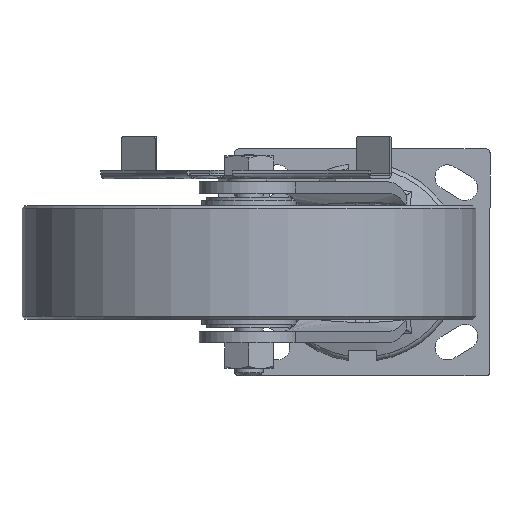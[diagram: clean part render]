
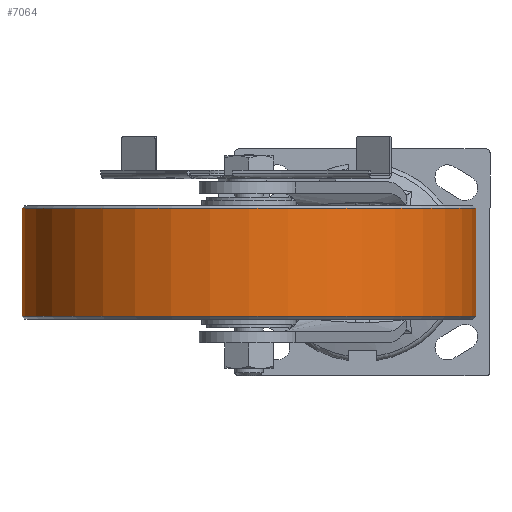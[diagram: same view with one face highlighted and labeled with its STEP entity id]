
A CAD part, front view. The second image highlights one B-rep face of the part: STEP entity #7064.
In plain terms, the highlighted cylindrical face has radius 101.6 mm (diameter 203.2 mm), a partial arc.
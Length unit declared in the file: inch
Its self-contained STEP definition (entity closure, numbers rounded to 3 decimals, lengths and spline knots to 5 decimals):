
#445 = DIRECTION ( 'NONE',  ( 0., 0., 1. ) ) ;
#583 = DIRECTION ( 'NONE',  ( -1., 0., 0. ) ) ;
#1116 = VECTOR ( 'NONE', #445, 39.37008 ) ;
#2665 = AXIS2_PLACEMENT_3D ( 'NONE', #29785, #43277, #19962 ) ;
#2746 = ORIENTED_EDGE ( 'NONE', *, *, #9779, .T. ) ;
#2912 = CARTESIAN_POINT ( 'NONE',  ( -4., 0., 0.95 ) ) ;
#3666 = CARTESIAN_POINT ( 'NONE',  ( 0., 0., -0.95 ) ) ;
#7064 = ADVANCED_FACE ( 'NONE', ( #19055 ), #26377, .T. ) ;
#8350 = VERTEX_POINT ( 'NONE', #18832 ) ;
#9779 = EDGE_CURVE ( 'NONE', #19366, #8350, #41791, .T. ) ;
#10350 = EDGE_LOOP ( 'NONE', ( #27290, #2746, #24322, #33626 ) ) ;
#10432 = DIRECTION ( 'NONE',  ( 0., 0., 1. ) ) ;
#10448 = AXIS2_PLACEMENT_3D ( 'NONE', #3666, #24279, #583 ) ;
#11182 = EDGE_CURVE ( 'NONE', #19366, #20779, #35803, .T. ) ;
#12751 = CARTESIAN_POINT ( 'NONE',  ( -4., 0., -0.95 ) ) ;
#13795 = LINE ( 'NONE', #33706, #1116 ) ;
#15661 = DIRECTION ( 'NONE',  ( -1., 0., 0. ) ) ;
#16761 = EDGE_CURVE ( 'NONE', #8350, #18525, #13795, .T. ) ;
#18525 = VERTEX_POINT ( 'NONE', #41731 ) ;
#18832 = CARTESIAN_POINT ( 'NONE',  ( 4., 0., -0.95 ) ) ;
#19055 = FACE_OUTER_BOUND ( 'NONE', #10350, .T. ) ;
#19366 = VERTEX_POINT ( 'NONE', #12751 ) ;
#19530 = VECTOR ( 'NONE', #10432, 39.37008 ) ;
#19962 = DIRECTION ( 'NONE',  ( 1., 0., 0. ) ) ;
#20779 = VERTEX_POINT ( 'NONE', #2912 ) ;
#24279 = DIRECTION ( 'NONE',  ( 0., 0., 1. ) ) ;
#24322 = ORIENTED_EDGE ( 'NONE', *, *, #16761, .T. ) ;
#24457 = AXIS2_PLACEMENT_3D ( 'NONE', #41454, #32220, #15661 ) ;
#26377 = CYLINDRICAL_SURFACE ( 'NONE', #2665, 4. ) ;
#27290 = ORIENTED_EDGE ( 'NONE', *, *, #11182, .F. ) ;
#29785 = CARTESIAN_POINT ( 'NONE',  ( 0., 0., 3.42397 ) ) ;
#30542 = CARTESIAN_POINT ( 'NONE',  ( -4., 0., 3.42397 ) ) ;
#32220 = DIRECTION ( 'NONE',  ( 0., 0., -1. ) ) ;
#32798 = EDGE_CURVE ( 'NONE', #18525, #20779, #41822, .T. ) ;
#33626 = ORIENTED_EDGE ( 'NONE', *, *, #32798, .T. ) ;
#33706 = CARTESIAN_POINT ( 'NONE',  ( 4., 0., 3.42397 ) ) ;
#35803 = LINE ( 'NONE', #30542, #19530 ) ;
#41454 = CARTESIAN_POINT ( 'NONE',  ( 0., 0., 0.95 ) ) ;
#41731 = CARTESIAN_POINT ( 'NONE',  ( 4., 0., 0.95 ) ) ;
#41791 = CIRCLE ( 'NONE', #10448, 4. ) ;
#41822 = CIRCLE ( 'NONE', #24457, 4. ) ;
#43277 = DIRECTION ( 'NONE',  ( 0., 0., 1. ) ) ;
